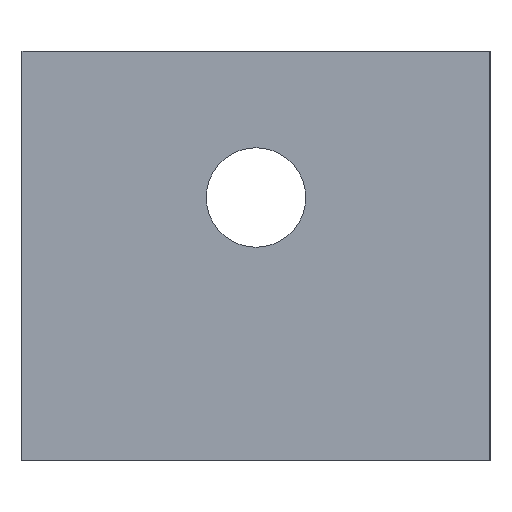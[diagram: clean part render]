
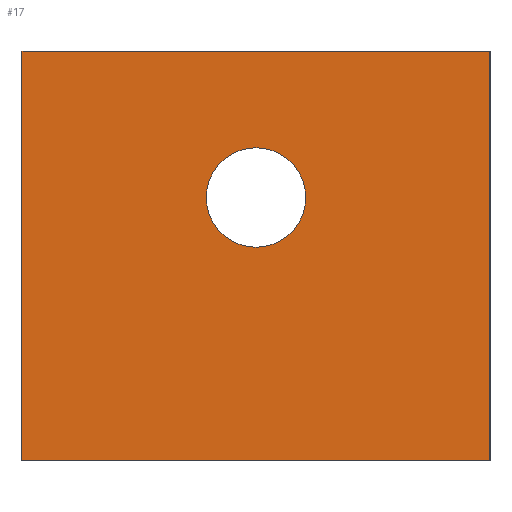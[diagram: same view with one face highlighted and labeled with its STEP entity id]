
A CAD part, left-side view. The second image highlights one B-rep face of the part: STEP entity #17.
In plain terms, the highlighted planar face has unit normal (-1, 0, 0).
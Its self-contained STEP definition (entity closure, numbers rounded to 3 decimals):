
#17 = ADVANCED_FACE('',(#18,#137),#32,.F.);
#18 = FACE_BOUND('',#19,.F.);
#19 = EDGE_LOOP('',(#20,#55,#83,#111));
#20 = ORIENTED_EDGE('',*,*,#21,.F.);
#21 = EDGE_CURVE('',#22,#24,#26,.T.);
#22 = VERTEX_POINT('',#23);
#23 = CARTESIAN_POINT('',(0.,0.,0.));
#24 = VERTEX_POINT('',#25);
#25 = CARTESIAN_POINT('',(0.,0.,35.));
#26 = SURFACE_CURVE('',#27,(#31,#43),.PCURVE_S1.);
#27 = LINE('',#28,#29);
#28 = CARTESIAN_POINT('',(0.,0.,0.));
#29 = VECTOR('',#30,1.);
#30 = DIRECTION('',(0.,0.,1.));
#31 = PCURVE('',#32,#37);
#32 = PLANE('',#33);
#33 = AXIS2_PLACEMENT_3D('',#34,#35,#36);
#34 = CARTESIAN_POINT('',(0.,0.,0.));
#35 = DIRECTION('',(1.,0.,0.));
#36 = DIRECTION('',(0.,0.,1.));
#37 = DEFINITIONAL_REPRESENTATION('',(#38),#42);
#38 = LINE('',#39,#40);
#39 = CARTESIAN_POINT('',(0.,0.));
#40 = VECTOR('',#41,1.);
#41 = DIRECTION('',(1.,0.));
#42 = ( GEOMETRIC_REPRESENTATION_CONTEXT(2) 
PARAMETRIC_REPRESENTATION_CONTEXT() REPRESENTATION_CONTEXT('2D SPACE',''
  ) );
#43 = PCURVE('',#44,#49);
#44 = PLANE('',#45);
#45 = AXIS2_PLACEMENT_3D('',#46,#47,#48);
#46 = CARTESIAN_POINT('',(0.,0.,0.));
#47 = DIRECTION('',(0.,1.,0.));
#48 = DIRECTION('',(0.,0.,1.));
#49 = DEFINITIONAL_REPRESENTATION('',(#50),#54);
#50 = LINE('',#51,#52);
#51 = CARTESIAN_POINT('',(0.,0.));
#52 = VECTOR('',#53,1.);
#53 = DIRECTION('',(1.,0.));
#54 = ( GEOMETRIC_REPRESENTATION_CONTEXT(2) 
PARAMETRIC_REPRESENTATION_CONTEXT() REPRESENTATION_CONTEXT('2D SPACE',''
  ) );
#55 = ORIENTED_EDGE('',*,*,#56,.T.);
#56 = EDGE_CURVE('',#22,#57,#59,.T.);
#57 = VERTEX_POINT('',#58);
#58 = CARTESIAN_POINT('',(0.,40.,0.));
#59 = SURFACE_CURVE('',#60,(#64,#71),.PCURVE_S1.);
#60 = LINE('',#61,#62);
#61 = CARTESIAN_POINT('',(0.,0.,0.));
#62 = VECTOR('',#63,1.);
#63 = DIRECTION('',(0.,1.,0.));
#64 = PCURVE('',#32,#65);
#65 = DEFINITIONAL_REPRESENTATION('',(#66),#70);
#66 = LINE('',#67,#68);
#67 = CARTESIAN_POINT('',(0.,0.));
#68 = VECTOR('',#69,1.);
#69 = DIRECTION('',(0.,-1.));
#70 = ( GEOMETRIC_REPRESENTATION_CONTEXT(2) 
PARAMETRIC_REPRESENTATION_CONTEXT() REPRESENTATION_CONTEXT('2D SPACE',''
  ) );
#71 = PCURVE('',#72,#77);
#72 = PLANE('',#73);
#73 = AXIS2_PLACEMENT_3D('',#74,#75,#76);
#74 = CARTESIAN_POINT('',(0.,0.,0.));
#75 = DIRECTION('',(0.,0.,1.));
#76 = DIRECTION('',(1.,0.,0.));
#77 = DEFINITIONAL_REPRESENTATION('',(#78),#82);
#78 = LINE('',#79,#80);
#79 = CARTESIAN_POINT('',(0.,0.));
#80 = VECTOR('',#81,1.);
#81 = DIRECTION('',(0.,1.));
#82 = ( GEOMETRIC_REPRESENTATION_CONTEXT(2) 
PARAMETRIC_REPRESENTATION_CONTEXT() REPRESENTATION_CONTEXT('2D SPACE',''
  ) );
#83 = ORIENTED_EDGE('',*,*,#84,.F.);
#84 = EDGE_CURVE('',#85,#57,#87,.T.);
#85 = VERTEX_POINT('',#86);
#86 = CARTESIAN_POINT('',(0.,40.,35.));
#87 = SURFACE_CURVE('',#88,(#92,#99),.PCURVE_S1.);
#88 = LINE('',#89,#90);
#89 = CARTESIAN_POINT('',(0.,40.,35.));
#90 = VECTOR('',#91,1.);
#91 = DIRECTION('',(0.,0.,-1.));
#92 = PCURVE('',#32,#93);
#93 = DEFINITIONAL_REPRESENTATION('',(#94),#98);
#94 = LINE('',#95,#96);
#95 = CARTESIAN_POINT('',(35.,-40.));
#96 = VECTOR('',#97,1.);
#97 = DIRECTION('',(-1.,0.));
#98 = ( GEOMETRIC_REPRESENTATION_CONTEXT(2) 
PARAMETRIC_REPRESENTATION_CONTEXT() REPRESENTATION_CONTEXT('2D SPACE',''
  ) );
#99 = PCURVE('',#100,#105);
#100 = PLANE('',#101);
#101 = AXIS2_PLACEMENT_3D('',#102,#103,#104);
#102 = CARTESIAN_POINT('',(0.,40.,0.));
#103 = DIRECTION('',(0.,1.,0.));
#104 = DIRECTION('',(0.,0.,1.));
#105 = DEFINITIONAL_REPRESENTATION('',(#106),#110);
#106 = LINE('',#107,#108);
#107 = CARTESIAN_POINT('',(35.,0.));
#108 = VECTOR('',#109,1.);
#109 = DIRECTION('',(-1.,0.));
#110 = ( GEOMETRIC_REPRESENTATION_CONTEXT(2) 
PARAMETRIC_REPRESENTATION_CONTEXT() REPRESENTATION_CONTEXT('2D SPACE',''
  ) );
#111 = ORIENTED_EDGE('',*,*,#112,.F.);
#112 = EDGE_CURVE('',#24,#85,#113,.T.);
#113 = SURFACE_CURVE('',#114,(#118,#125),.PCURVE_S1.);
#114 = LINE('',#115,#116);
#115 = CARTESIAN_POINT('',(0.,0.,35.));
#116 = VECTOR('',#117,1.);
#117 = DIRECTION('',(0.,1.,0.));
#118 = PCURVE('',#32,#119);
#119 = DEFINITIONAL_REPRESENTATION('',(#120),#124);
#120 = LINE('',#121,#122);
#121 = CARTESIAN_POINT('',(35.,0.));
#122 = VECTOR('',#123,1.);
#123 = DIRECTION('',(0.,-1.));
#124 = ( GEOMETRIC_REPRESENTATION_CONTEXT(2) 
PARAMETRIC_REPRESENTATION_CONTEXT() REPRESENTATION_CONTEXT('2D SPACE',''
  ) );
#125 = PCURVE('',#126,#131);
#126 = PLANE('',#127);
#127 = AXIS2_PLACEMENT_3D('',#128,#129,#130);
#128 = CARTESIAN_POINT('',(0.,0.,35.));
#129 = DIRECTION('',(0.,0.,1.));
#130 = DIRECTION('',(1.,0.,0.));
#131 = DEFINITIONAL_REPRESENTATION('',(#132),#136);
#132 = LINE('',#133,#134);
#133 = CARTESIAN_POINT('',(0.,0.));
#134 = VECTOR('',#135,1.);
#135 = DIRECTION('',(0.,1.));
#136 = ( GEOMETRIC_REPRESENTATION_CONTEXT(2) 
PARAMETRIC_REPRESENTATION_CONTEXT() REPRESENTATION_CONTEXT('2D SPACE',''
  ) );
#137 = FACE_BOUND('',#138,.F.);
#138 = EDGE_LOOP('',(#139));
#139 = ORIENTED_EDGE('',*,*,#140,.F.);
#140 = EDGE_CURVE('',#141,#141,#143,.T.);
#141 = VERTEX_POINT('',#142);
#142 = CARTESIAN_POINT('',(0.,20.,26.75));
#143 = SURFACE_CURVE('',#144,(#149,#156),.PCURVE_S1.);
#144 = CIRCLE('',#145,4.25);
#145 = AXIS2_PLACEMENT_3D('',#146,#147,#148);
#146 = CARTESIAN_POINT('',(0.,20.,22.5));
#147 = DIRECTION('',(1.,0.,0.));
#148 = DIRECTION('',(-0.,0.,1.));
#149 = PCURVE('',#32,#150);
#150 = DEFINITIONAL_REPRESENTATION('',(#151),#155);
#151 = CIRCLE('',#152,4.25);
#152 = AXIS2_PLACEMENT_2D('',#153,#154);
#153 = CARTESIAN_POINT('',(22.5,-20.));
#154 = DIRECTION('',(1.,0.));
#155 = ( GEOMETRIC_REPRESENTATION_CONTEXT(2) 
PARAMETRIC_REPRESENTATION_CONTEXT() REPRESENTATION_CONTEXT('2D SPACE',''
  ) );
#156 = PCURVE('',#157,#162);
#157 = CYLINDRICAL_SURFACE('',#158,4.25);
#158 = AXIS2_PLACEMENT_3D('',#159,#160,#161);
#159 = CARTESIAN_POINT('',(-1.,20.,22.5));
#160 = DIRECTION('',(1.,0.,0.));
#161 = DIRECTION('',(-0.,0.,1.));
#162 = DEFINITIONAL_REPRESENTATION('',(#163),#167);
#163 = LINE('',#164,#165);
#164 = CARTESIAN_POINT('',(0.,1.));
#165 = VECTOR('',#166,1.);
#166 = DIRECTION('',(1.,0.));
#167 = ( GEOMETRIC_REPRESENTATION_CONTEXT(2) 
PARAMETRIC_REPRESENTATION_CONTEXT() REPRESENTATION_CONTEXT('2D SPACE',''
  ) );
